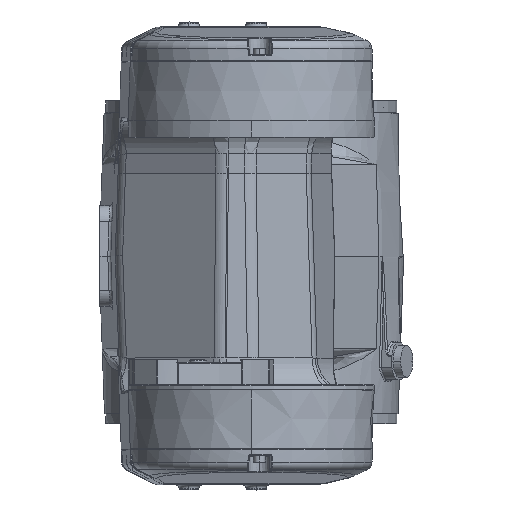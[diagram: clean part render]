
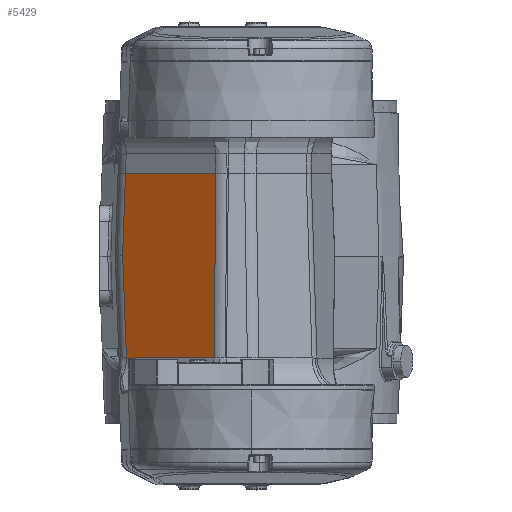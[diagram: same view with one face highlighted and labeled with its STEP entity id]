
A CAD part, top view. The second image highlights one B-rep face of the part: STEP entity #5429.
In plain terms, the highlighted planar face has unit normal (-0.599, 0.035, 0.8).
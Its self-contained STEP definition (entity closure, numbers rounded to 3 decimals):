
#19 = EDGE_CURVE ( 'NONE', #36239, #59544, #16975, .T. ) ;
#361 = CARTESIAN_POINT ( 'NONE',  ( 73.547, 0.384, 935.347 ) ) ;
#474 = CARTESIAN_POINT ( 'NONE',  ( 132.787, 49., 977.586 ) ) ;
#836 = EDGE_CURVE ( 'NONE', #43695, #59774, #37528, .T. ) ;
#1216 = VECTOR ( 'NONE', #49653, 1000. ) ;
#3833 = DIRECTION ( 'NONE',  ( -0.8, 0., -0.599 ) ) ;
#4078 = EDGE_CURVE ( 'NONE', #59774, #17942, #24002, .T. ) ;
#5429 = ADVANCED_FACE ( 'NONE', ( #55140 ), #9015, .F. ) ;
#7606 = LINE ( 'NONE', #26247, #16336 ) ;
#8111 = CARTESIAN_POINT ( 'NONE',  ( 130.49, -60.698, 980.653 ) ) ;
#9015 = PLANE ( 'NONE',  #59098 ) ;
#12262 = CARTESIAN_POINT ( 'NONE',  ( 75.79, -60.698, 939.691 ) ) ;
#13292 = CARTESIAN_POINT ( 'NONE',  ( 131.761, 0., 978.956 ) ) ;
#16336 = VECTOR ( 'NONE', #21672, 1000. ) ;
#16975 = LINE ( 'NONE', #8111, #1216 ) ;
#17942 = VERTEX_POINT ( 'NONE', #57711 ) ;
#18076 = EDGE_CURVE ( 'NONE', #59544, #43695, #7606, .T. ) ;
#20364 = CARTESIAN_POINT ( 'NONE',  ( 74.11, 16.589, 935.061 ) ) ;
#21604 = ORIENTED_EDGE ( 'NONE', *, *, #4078, .F. ) ;
#21672 = DIRECTION ( 'NONE',  ( -0.037, 0.997, -0.071 ) ) ;
#24002 = LINE ( 'NONE', #474, #51260 ) ;
#24676 = DIRECTION ( 'NONE',  ( -0.01, -0.999, 0.036 ) ) ;
#26247 = CARTESIAN_POINT ( 'NONE',  ( 73.649, -2.394, 935.544 ) ) ;
#28858 = DIRECTION ( 'NONE',  ( 0.8, 0., 0.599 ) ) ;
#29006 = CARTESIAN_POINT ( 'NONE',  ( 75.237, 49., 934.491 ) ) ;
#30125 = CARTESIAN_POINT ( 'NONE',  ( 75.237, 49., 934.491 ) ) ;
#33482 = VECTOR ( 'NONE', #24676, 1000. ) ;
#34104 = CARTESIAN_POINT ( 'NONE',  ( 73.547, 0.384, 935.347 ) ) ;
#34128 = LINE ( 'NONE', #44488, #33482 ) ;
#36239 = VERTEX_POINT ( 'NONE', #54211 ) ;
#36799 = DIRECTION ( 'NONE',  ( 0.599, -0.035, -0.8 ) ) ;
#37528 = B_SPLINE_CURVE_WITH_KNOTS ( 'NONE', 3,
 ( #34104, #20364, #53027, #30125 ),
 .UNSPECIFIED., .F., .F.,
 ( 4, 4 ),
 ( 0., 1. ),
 .UNSPECIFIED. ) ;
#41320 = EDGE_LOOP ( 'NONE', ( #47854, #53377, #47270, #21604, #45373 ) ) ;
#43695 = VERTEX_POINT ( 'NONE', #361 ) ;
#44488 = CARTESIAN_POINT ( 'NONE',  ( 128.984, 49., 974.739 ) ) ;
#45373 = ORIENTED_EDGE ( 'NONE', *, *, #836, .F. ) ;
#47270 = ORIENTED_EDGE ( 'NONE', *, *, #53692, .F. ) ;
#47854 = ORIENTED_EDGE ( 'NONE', *, *, #18076, .F. ) ;
#49653 = DIRECTION ( 'NONE',  ( -0.8, 0., -0.599 ) ) ;
#51260 = VECTOR ( 'NONE', #28858, 1000. ) ;
#53027 = CARTESIAN_POINT ( 'NONE',  ( 74.673, 32.795, 934.776 ) ) ;
#53377 = ORIENTED_EDGE ( 'NONE', *, *, #19, .F. ) ;
#53692 = EDGE_CURVE ( 'NONE', #17942, #36239, #34128, .T. ) ;
#54211 = CARTESIAN_POINT ( 'NONE',  ( 127.835, -60.698, 978.664 ) ) ;
#55140 = FACE_OUTER_BOUND ( 'NONE', #41320, .T. ) ;
#57711 = CARTESIAN_POINT ( 'NONE',  ( 128.984, 49., 974.739 ) ) ;
#59098 = AXIS2_PLACEMENT_3D ( 'NONE', #13292, #36799, #3833 ) ;
#59544 = VERTEX_POINT ( 'NONE', #12262 ) ;
#59774 = VERTEX_POINT ( 'NONE', #29006 ) ;
